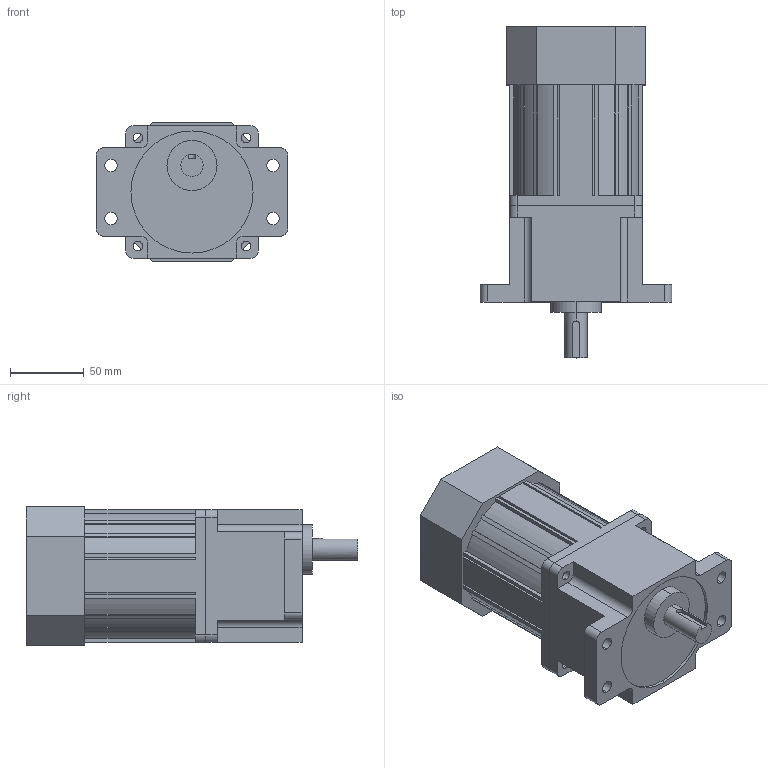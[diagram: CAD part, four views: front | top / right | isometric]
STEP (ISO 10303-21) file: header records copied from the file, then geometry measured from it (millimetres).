
FILE_DESCRIPTION (( 'STEP AP203' ), '1' );
FILE_NAME ('L9WK003B + L9I60PBH.STEP', '2018-09-20T05:33:20', ( '' ), ( '' ), 'SwSTEP 2.0', 'SolidWorks 2017', '' );
FILE_SCHEMA (( 'CONFIG_CONTROL_DESIGN' ));
Length unit declared in the file: millimetre
Products named in the file (1): L9WK003B + L9I60PBH
Bounding box: 130 x 225.5 x 94 mm (x, y, z)
Volume: 1369347 mm3; surface area: 110080.4 mm2
Topology: 2 solids, 2 shells, 170 faces, 486 edges, 324 vertices
Faces by surface type: plane 103, cylinder 67
Entity records: 5714 total; most frequent: CARTESIAN_POINT 1013, ORIENTED_EDGE 972, DIRECTION 959, EDGE_CURVE 486, VECTOR 351, LINE 351, VERTEX_POINT 324, AXIS2_PLACEMENT_3D 304
